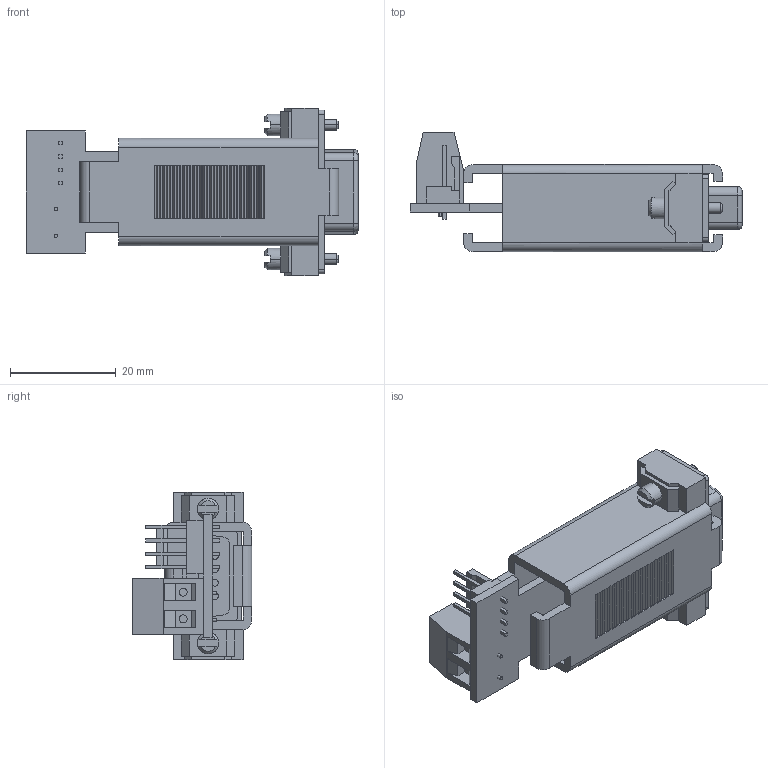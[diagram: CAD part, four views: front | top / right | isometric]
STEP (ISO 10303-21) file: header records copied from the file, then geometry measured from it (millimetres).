
FILE_DESCRIPTION((''),'2;1');
FILE_NAME('RS485_ASM','2008-10-01T',('yeevh'),(''),'PRO/ENGINEER BY PARAMETRIC TECHNOLOGY CORPORATION, 2006300','PRO/ENGINEER BY PARAMETRIC TECHNOLOGY CORPORATION, 2006300','');
FILE_SCHEMA(('CONFIG_CONTROL_DESIGN'));
Length unit declared in the file: inch
Products named in the file (8): PCB_8; CONNECTOR_2_WIRE; CONNECTOR_4PIN; CONNECTOR_RS485; RS_485_ENCLOSURE; RS-485_HARDWARE; SCREW; RS485_ASM
Assembly tree (9 placements, depth 2):
  RS485_ASM
    PCB_8
    CONNECTOR_2_WIRE
    CONNECTOR_4PIN
    CONNECTOR_RS485
    RS_485_ENCLOSURE
    RS-485_HARDWARE  x2
    SCREW  x2
Bounding box: 62.87 x 22.63 x 31.75 mm (x, y, z)
Volume: 10136.1 mm3; surface area: 12321 mm2
Topology: 9 solids, 9 shells, 613 faces, 1393 edges, 838 vertices
Faces by surface type: plane 497, cylinder 104, cone 8, bspline 2, torus 2
Entity records: 16193 total; most frequent: CARTESIAN_POINT 2790, DIRECTION 2739, ORIENTED_EDGE 2658, EDGE_CURVE 1329, VECTOR 1105, LINE 1105, AXIS2_PLACEMENT_3D 817, VERTEX_POINT 796
